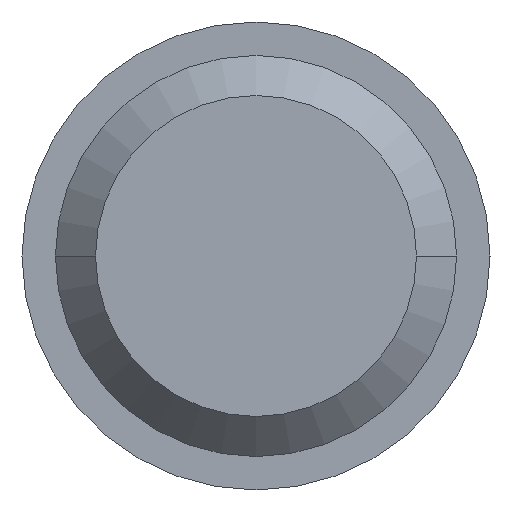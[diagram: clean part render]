
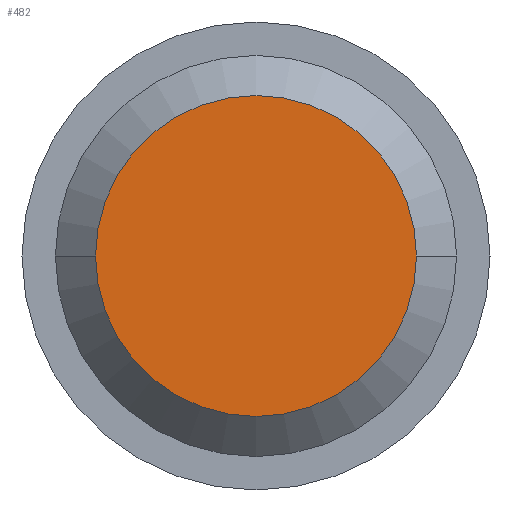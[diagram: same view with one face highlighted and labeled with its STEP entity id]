
A CAD part, left-side view. The second image highlights one B-rep face of the part: STEP entity #482.
In plain terms, the highlighted planar face has unit normal (-1, 0, 0).
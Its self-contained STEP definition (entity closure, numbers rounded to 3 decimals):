
#351=CARTESIAN_POINT('',(0.,0.,0.));
#352=DIRECTION('',(-1.,0.,0.));
#353=DIRECTION('',(0.,1.,0.));
#354=AXIS2_PLACEMENT_3D('',#351,#352,#353);
#356=CARTESIAN_POINT('',(0.,0.,0.));
#357=DIRECTION('',(1.,0.,0.));
#358=DIRECTION('',(0.,1.,0.));
#359=AXIS2_PLACEMENT_3D('',#356,#357,#358);
#367=CARTESIAN_POINT('',(0.,4.8,0.));
#368=VERTEX_POINT('',#367);
#375=CARTESIAN_POINT('',(0.,-4.8,0.));
#376=VERTEX_POINT('',#375);
#473=CARTESIAN_POINT('',(0.,0.,0.));
#474=DIRECTION('',(1.,0.,0.));
#475=DIRECTION('',(0.,-1.,0.));
#476=AXIS2_PLACEMENT_3D('',#473,#474,#475);
#477=PLANE('',#476);
#478=ORIENTED_EDGE('',*,*,#452,.F.);
#479=ORIENTED_EDGE('',*,*,#468,.T.);
#480=EDGE_LOOP('',(#478,#479));
#481=FACE_OUTER_BOUND('',#480,.F.);
#482=ADVANCED_FACE('',(#481),#477,.F.);
#355=CIRCLE('',#354,4.8);
#360=CIRCLE('',#359,4.8);
#452=EDGE_CURVE('',#368,#376,#355,.T.);
#468=EDGE_CURVE('',#368,#376,#360,.T.);
